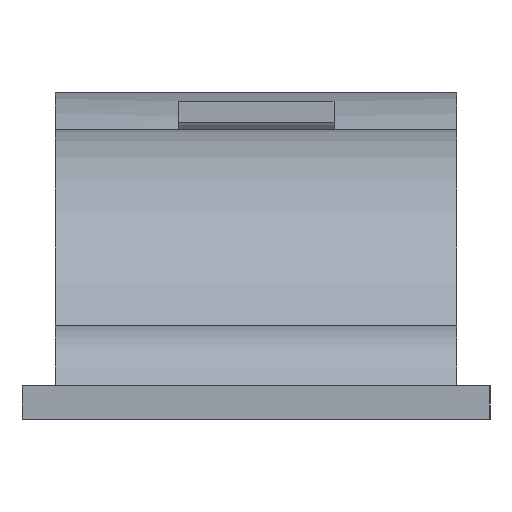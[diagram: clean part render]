
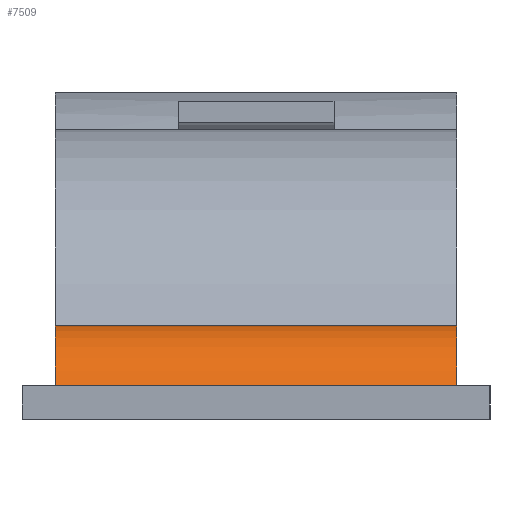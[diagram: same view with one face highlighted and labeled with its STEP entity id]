
A CAD part, left-side view. The second image highlights one B-rep face of the part: STEP entity #7509.
In plain terms, the highlighted cylindrical face has radius 42 mm (diameter 84 mm), a partial arc.
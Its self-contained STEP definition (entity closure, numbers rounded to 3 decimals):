
#2089 = PLANE('',#2090);
#2090 = AXIS2_PLACEMENT_3D('',#2091,#2092,#2093);
#2091 = CARTESIAN_POINT('',(-48.,-105.,175.));
#2092 = DIRECTION('',(0.,0.,1.));
#2093 = DIRECTION('',(1.,0.,-0.));
#2405 = PLANE('',#2406);
#2406 = AXIS2_PLACEMENT_3D('',#2407,#2408,#2409);
#2407 = CARTESIAN_POINT('',(130.,90.,160.));
#2408 = DIRECTION('',(0.,1.,0.));
#2409 = DIRECTION('',(1.,0.,-0.));
#2564 = PLANE('',#2565);
#2565 = AXIS2_PLACEMENT_3D('',#2566,#2567,#2568);
#2566 = CARTESIAN_POINT('',(0.,-90.,160.));
#2567 = DIRECTION('',(0.,1.,0.));
#2568 = DIRECTION('',(1.,0.,-0.));
#5802 = VERTEX_POINT('',#5803);
#5803 = CARTESIAN_POINT('',(-39.23,-90.,175.));
#5824 = EDGE_CURVE('',#5802,#5825,#5827,.T.);
#5825 = VERTEX_POINT('',#5826);
#5826 = CARTESIAN_POINT('',(-39.23,90.,175.));
#5827 = SURFACE_CURVE('',#5828,(#5832,#5838),.PCURVE_S1.);
#5828 = LINE('',#5829,#5830);
#5829 = CARTESIAN_POINT('',(-39.23,-90.,175.));
#5830 = VECTOR('',#5831,1.);
#5831 = DIRECTION('',(0.,1.,0.));
#5832 = PCURVE('',#2089,#5833);
#5833 = DEFINITIONAL_REPRESENTATION('',(#5834),#5837);
#5834 = B_SPLINE_CURVE_WITH_KNOTS('',1,(#5835,#5836),.UNSPECIFIED.,.F.,
  .F.,(2,2),(0.,180.),.PIECEWISE_BEZIER_KNOTS.);
#5835 = CARTESIAN_POINT('',(8.77,15.));
#5836 = CARTESIAN_POINT('',(8.77,195.));
#5837 = ( GEOMETRIC_REPRESENTATION_CONTEXT(2) 
PARAMETRIC_REPRESENTATION_CONTEXT() REPRESENTATION_CONTEXT('2D SPACE',''
  ) );
#5838 = PCURVE('',#5839,#5844);
#5839 = CYLINDRICAL_SURFACE('',#5840,42.);
#5840 = AXIS2_PLACEMENT_3D('',#5841,#5842,#5843);
#5841 = CARTESIAN_POINT('',(0.,-90.,160.));
#5842 = DIRECTION('',(0.,1.,0.));
#5843 = DIRECTION('',(1.,0.,-0.));
#5844 = DEFINITIONAL_REPRESENTATION('',(#5845),#5848);
#5845 = B_SPLINE_CURVE_WITH_KNOTS('',1,(#5846,#5847),.UNSPECIFIED.,.F.,
  .F.,(2,2),(0.,180.),.PIECEWISE_BEZIER_KNOTS.);
#5846 = CARTESIAN_POINT('',(3.507,0.));
#5847 = CARTESIAN_POINT('',(3.507,180.));
#5848 = ( GEOMETRIC_REPRESENTATION_CONTEXT(2) 
PARAMETRIC_REPRESENTATION_CONTEXT() REPRESENTATION_CONTEXT('2D SPACE',''
  ) );
#5877 = EDGE_CURVE('',#5825,#5878,#5880,.T.);
#5878 = VERTEX_POINT('',#5879);
#5879 = CARTESIAN_POINT('',(6.785,90.,201.448));
#5880 = SURFACE_CURVE('',#5881,(#5886,#5893),.PCURVE_S1.);
#5881 = CIRCLE('',#5882,42.);
#5882 = AXIS2_PLACEMENT_3D('',#5883,#5884,#5885);
#5883 = CARTESIAN_POINT('',(0.,90.,160.));
#5884 = DIRECTION('',(0.,1.,0.));
#5885 = DIRECTION('',(1.,0.,-0.));
#5886 = PCURVE('',#2405,#5887);
#5887 = DEFINITIONAL_REPRESENTATION('',(#5888),#5892);
#5888 = CIRCLE('',#5889,42.);
#5889 = AXIS2_PLACEMENT_2D('',#5890,#5891);
#5890 = CARTESIAN_POINT('',(-130.,0.));
#5891 = DIRECTION('',(1.,0.));
#5892 = ( GEOMETRIC_REPRESENTATION_CONTEXT(2) 
PARAMETRIC_REPRESENTATION_CONTEXT() REPRESENTATION_CONTEXT('2D SPACE',''
  ) );
#5893 = PCURVE('',#5839,#5894);
#5894 = DEFINITIONAL_REPRESENTATION('',(#5895),#5899);
#5895 = LINE('',#5896,#5897);
#5896 = CARTESIAN_POINT('',(0.,180.));
#5897 = VECTOR('',#5898,1.);
#5898 = DIRECTION('',(1.,0.));
#5899 = ( GEOMETRIC_REPRESENTATION_CONTEXT(2) 
PARAMETRIC_REPRESENTATION_CONTEXT() REPRESENTATION_CONTEXT('2D SPACE',''
  ) );
#5922 = CYLINDRICAL_SURFACE('',#5923,130.);
#5923 = AXIS2_PLACEMENT_3D('',#5924,#5925,#5926);
#5924 = CARTESIAN_POINT('',(130.,-90.,160.));
#5925 = DIRECTION('',(0.,1.,0.));
#5926 = DIRECTION('',(1.,0.,-0.));
#6164 = EDGE_CURVE('',#5802,#6165,#6167,.T.);
#6165 = VERTEX_POINT('',#6166);
#6166 = CARTESIAN_POINT('',(6.785,-90.,201.448));
#6167 = SURFACE_CURVE('',#6168,(#6173,#6180),.PCURVE_S1.);
#6168 = CIRCLE('',#6169,42.);
#6169 = AXIS2_PLACEMENT_3D('',#6170,#6171,#6172);
#6170 = CARTESIAN_POINT('',(0.,-90.,160.));
#6171 = DIRECTION('',(0.,1.,0.));
#6172 = DIRECTION('',(1.,0.,-0.));
#6173 = PCURVE('',#2564,#6174);
#6174 = DEFINITIONAL_REPRESENTATION('',(#6175),#6179);
#6175 = CIRCLE('',#6176,42.);
#6176 = AXIS2_PLACEMENT_2D('',#6177,#6178);
#6177 = CARTESIAN_POINT('',(0.,0.));
#6178 = DIRECTION('',(1.,0.));
#6179 = ( GEOMETRIC_REPRESENTATION_CONTEXT(2) 
PARAMETRIC_REPRESENTATION_CONTEXT() REPRESENTATION_CONTEXT('2D SPACE',''
  ) );
#6180 = PCURVE('',#5839,#6181);
#6181 = DEFINITIONAL_REPRESENTATION('',(#6182),#6186);
#6182 = LINE('',#6183,#6184);
#6183 = CARTESIAN_POINT('',(0.,0.));
#6184 = VECTOR('',#6185,1.);
#6185 = DIRECTION('',(1.,0.));
#6186 = ( GEOMETRIC_REPRESENTATION_CONTEXT(2) 
PARAMETRIC_REPRESENTATION_CONTEXT() REPRESENTATION_CONTEXT('2D SPACE',''
  ) );
#7509 = ADVANCED_FACE('',(#7510),#5839,.T.);
#7510 = FACE_BOUND('',#7511,.T.);
#7511 = EDGE_LOOP('',(#7512,#7513,#7514,#7515));
#7512 = ORIENTED_EDGE('',*,*,#5877,.F.);
#7513 = ORIENTED_EDGE('',*,*,#5824,.F.);
#7514 = ORIENTED_EDGE('',*,*,#6164,.T.);
#7515 = ORIENTED_EDGE('',*,*,#7516,.T.);
#7516 = EDGE_CURVE('',#6165,#5878,#7517,.T.);
#7517 = SURFACE_CURVE('',#7518,(#7522,#7528),.PCURVE_S1.);
#7518 = LINE('',#7519,#7520);
#7519 = CARTESIAN_POINT('',(6.785,-90.,201.448));
#7520 = VECTOR('',#7521,1.);
#7521 = DIRECTION('',(0.,1.,0.));
#7522 = PCURVE('',#5839,#7523);
#7523 = DEFINITIONAL_REPRESENTATION('',(#7524),#7527);
#7524 = B_SPLINE_CURVE_WITH_KNOTS('',1,(#7525,#7526),.UNSPECIFIED.,.F.,
  .F.,(2,2),(0.,180.),.PIECEWISE_BEZIER_KNOTS.);
#7525 = CARTESIAN_POINT('',(4.875,0.));
#7526 = CARTESIAN_POINT('',(4.875,180.));
#7527 = ( GEOMETRIC_REPRESENTATION_CONTEXT(2) 
PARAMETRIC_REPRESENTATION_CONTEXT() REPRESENTATION_CONTEXT('2D SPACE',''
  ) );
#7528 = PCURVE('',#5922,#7529);
#7529 = DEFINITIONAL_REPRESENTATION('',(#7530),#7533);
#7530 = B_SPLINE_CURVE_WITH_KNOTS('',1,(#7531,#7532),.UNSPECIFIED.,.F.,
  .F.,(2,2),(0.,180.),.PIECEWISE_BEZIER_KNOTS.);
#7531 = CARTESIAN_POINT('',(3.466,0.));
#7532 = CARTESIAN_POINT('',(3.466,180.));
#7533 = ( GEOMETRIC_REPRESENTATION_CONTEXT(2) 
PARAMETRIC_REPRESENTATION_CONTEXT() REPRESENTATION_CONTEXT('2D SPACE',''
  ) );
